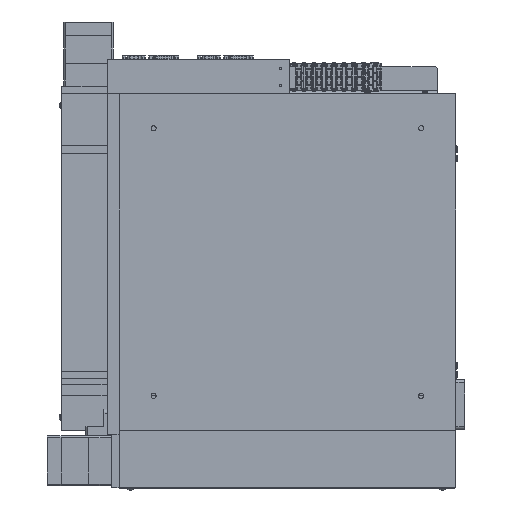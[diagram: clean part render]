
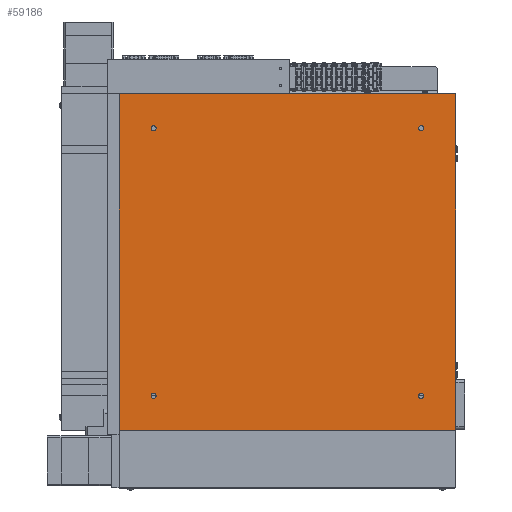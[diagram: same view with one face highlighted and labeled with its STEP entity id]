
A CAD part, front view. The second image highlights one B-rep face of the part: STEP entity #59186.
In plain terms, the highlighted planar face has unit normal (0, -1, 0).
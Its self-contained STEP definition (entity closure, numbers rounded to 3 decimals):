
#1186 = DIRECTION ( 'NONE',  ( 0., 0., 1. ) ) ;
#2061 = CARTESIAN_POINT ( 'NONE',  ( -220., 0., 220. ) ) ;
#4040 = CIRCLE ( 'NONE', #39482, 3.3 ) ;
#4667 = ORIENTED_EDGE ( 'NONE', *, *, #87656, .T. ) ;
#4903 = CARTESIAN_POINT ( 'NONE',  ( 175., 0., 175. ) ) ;
#5033 = DIRECTION ( 'NONE',  ( 0., 1., 0. ) ) ;
#5358 = CIRCLE ( 'NONE', #46763, 3.3 ) ;
#8767 = VERTEX_POINT ( 'NONE', #2061 ) ;
#9667 = VECTOR ( 'NONE', #73971, 1000. ) ;
#10274 = EDGE_LOOP ( 'NONE', ( #84676, #73522 ) ) ;
#13258 = AXIS2_PLACEMENT_3D ( 'NONE', #60810, #24796, #31212 ) ;
#13278 = ORIENTED_EDGE ( 'NONE', *, *, #60218, .T. ) ;
#14311 = CARTESIAN_POINT ( 'NONE',  ( 220., 0., 220. ) ) ;
#15966 = FACE_BOUND ( 'NONE', #76159, .T. ) ;
#17038 = FACE_BOUND ( 'NONE', #76441, .T. ) ;
#17712 = LINE ( 'NONE', #57395, #38296 ) ;
#17789 = CARTESIAN_POINT ( 'NONE',  ( -175., 0., -175. ) ) ;
#18253 = VERTEX_POINT ( 'NONE', #23644 ) ;
#18469 = ORIENTED_EDGE ( 'NONE', *, *, #79032, .F. ) ;
#18575 = CIRCLE ( 'NONE', #69526, 3.3 ) ;
#19111 = EDGE_LOOP ( 'NONE', ( #55424, #39641, #18469, #49808 ) ) ;
#19838 = EDGE_CURVE ( 'NONE', #89868, #72749, #82576, .T. ) ;
#20342 = CARTESIAN_POINT ( 'NONE',  ( -175., 0., 178.3 ) ) ;
#22399 = VERTEX_POINT ( 'NONE', #75032 ) ;
#23644 = CARTESIAN_POINT ( 'NONE',  ( 220., 0., -220. ) ) ;
#24796 = DIRECTION ( 'NONE',  ( 0., 1., 0. ) ) ;
#25765 = DIRECTION ( 'NONE',  ( 0., 0., 1. ) ) ;
#26183 = EDGE_CURVE ( 'NONE', #29139, #29512, #4040, .T. ) ;
#27728 = DIRECTION ( 'NONE',  ( 0., 1., 0. ) ) ;
#27845 = CIRCLE ( 'NONE', #85284, 3.3 ) ;
#29057 = LINE ( 'NONE', #44605, #71160 ) ;
#29139 = VERTEX_POINT ( 'NONE', #86421 ) ;
#29512 = VERTEX_POINT ( 'NONE', #20342 ) ;
#31212 = DIRECTION ( 'NONE',  ( 0., 0., 1. ) ) ;
#32157 = CIRCLE ( 'NONE', #45503, 3.3 ) ;
#32907 = CARTESIAN_POINT ( 'NONE',  ( -220., 0., -220. ) ) ;
#33378 = CARTESIAN_POINT ( 'NONE',  ( -175., 0., -178.3 ) ) ;
#36123 = VERTEX_POINT ( 'NONE', #58691 ) ;
#36129 = DIRECTION ( 'NONE',  ( 0., 0., 1. ) ) ;
#36553 = VERTEX_POINT ( 'NONE', #14311 ) ;
#38296 = VECTOR ( 'NONE', #42086, 1000. ) ;
#39170 = DIRECTION ( 'NONE',  ( 0., 1., 0. ) ) ;
#39457 = VERTEX_POINT ( 'NONE', #32907 ) ;
#39482 = AXIS2_PLACEMENT_3D ( 'NONE', #81749, #46069, #68043 ) ;
#39641 = ORIENTED_EDGE ( 'NONE', *, *, #71910, .F. ) ;
#41864 = DIRECTION ( 'NONE',  ( 0., 1., 0. ) ) ;
#42086 = DIRECTION ( 'NONE',  ( 1., 0., 0. ) ) ;
#44605 = CARTESIAN_POINT ( 'NONE',  ( -220., 0., -220. ) ) ;
#44823 = DIRECTION ( 'NONE',  ( 0., 1., 0. ) ) ;
#45503 = AXIS2_PLACEMENT_3D ( 'NONE', #17789, #39170, #75783 ) ;
#46069 = DIRECTION ( 'NONE',  ( 0., 1., 0. ) ) ;
#46276 = VERTEX_POINT ( 'NONE', #66693 ) ;
#46413 = CIRCLE ( 'NONE', #51641, 3.3 ) ;
#46763 = AXIS2_PLACEMENT_3D ( 'NONE', #88101, #65740, #36129 ) ;
#47005 = ORIENTED_EDGE ( 'NONE', *, *, #83039, .T. ) ;
#47422 = DIRECTION ( 'NONE',  ( 0., 1., 0. ) ) ;
#48488 = EDGE_CURVE ( 'NONE', #39457, #8767, #67791, .T. ) ;
#48762 = DIRECTION ( 'NONE',  ( 0., 0., 1. ) ) ;
#49100 = CARTESIAN_POINT ( 'NONE',  ( 175., 0., -175. ) ) ;
#49808 = ORIENTED_EDGE ( 'NONE', *, *, #61134, .F. ) ;
#50480 = DIRECTION ( 'NONE',  ( 0., 0., 1. ) ) ;
#50726 = CARTESIAN_POINT ( 'NONE',  ( -220., 0., -220. ) ) ;
#50916 = EDGE_LOOP ( 'NONE', ( #13278, #4667 ) ) ;
#51641 = AXIS2_PLACEMENT_3D ( 'NONE', #89452, #44823, #1186 ) ;
#52451 = FACE_BOUND ( 'NONE', #10274, .T. ) ;
#55424 = ORIENTED_EDGE ( 'NONE', *, *, #48488, .F. ) ;
#56390 = AXIS2_PLACEMENT_3D ( 'NONE', #62751, #5033, #85355 ) ;
#57395 = CARTESIAN_POINT ( 'NONE',  ( -220., 0., 220. ) ) ;
#58343 = VECTOR ( 'NONE', #68395, 1000. ) ;
#58691 = CARTESIAN_POINT ( 'NONE',  ( 175., 0., -171.7 ) ) ;
#59186 = ADVANCED_FACE ( 'NONE', ( #17038, #92321, #15966, #52451, #88975 ), #69451, .F. ) ;
#60218 = EDGE_CURVE ( 'NONE', #22399, #83536, #46413, .T. ) ;
#60585 = EDGE_CURVE ( 'NONE', #72749, #89868, #5358, .T. ) ;
#60810 = CARTESIAN_POINT ( 'NONE',  ( -175., 0., 175. ) ) ;
#61134 = EDGE_CURVE ( 'NONE', #8767, #36553, #17712, .T. ) ;
#61709 = CARTESIAN_POINT ( 'NONE',  ( 220., 0., -220. ) ) ;
#62751 = CARTESIAN_POINT ( 'NONE',  ( 0., 0., 0. ) ) ;
#64069 = CARTESIAN_POINT ( 'NONE',  ( 175., 0., 178.3 ) ) ;
#65140 = AXIS2_PLACEMENT_3D ( 'NONE', #4903, #41864, #50480 ) ;
#65740 = DIRECTION ( 'NONE',  ( 0., 1., 0. ) ) ;
#66693 = CARTESIAN_POINT ( 'NONE',  ( 175., 0., -178.3 ) ) ;
#67791 = LINE ( 'NONE', #50726, #9667 ) ;
#68043 = DIRECTION ( 'NONE',  ( 0., 0., 1. ) ) ;
#68395 = DIRECTION ( 'NONE',  ( 0., 0., -1. ) ) ;
#69451 = PLANE ( 'NONE',  #56390 ) ;
#69526 = AXIS2_PLACEMENT_3D ( 'NONE', #49100, #27728, #48762 ) ;
#71160 = VECTOR ( 'NONE', #88599, 1000. ) ;
#71910 = EDGE_CURVE ( 'NONE', #18253, #39457, #29057, .T. ) ;
#72269 = CIRCLE ( 'NONE', #13258, 3.3 ) ;
#72749 = VERTEX_POINT ( 'NONE', #87607 ) ;
#73522 = ORIENTED_EDGE ( 'NONE', *, *, #60585, .T. ) ;
#73971 = DIRECTION ( 'NONE',  ( 0., 0., 1. ) ) ;
#75032 = CARTESIAN_POINT ( 'NONE',  ( -175., 0., -171.7 ) ) ;
#75672 = EDGE_CURVE ( 'NONE', #29512, #29139, #72269, .T. ) ;
#75783 = DIRECTION ( 'NONE',  ( 0., 0., 1. ) ) ;
#75807 = EDGE_CURVE ( 'NONE', #36123, #46276, #27845, .T. ) ;
#76159 = EDGE_LOOP ( 'NONE', ( #89702, #47005 ) ) ;
#76441 = EDGE_LOOP ( 'NONE', ( #90137, #76783 ) ) ;
#76783 = ORIENTED_EDGE ( 'NONE', *, *, #26183, .T. ) ;
#79032 = EDGE_CURVE ( 'NONE', #36553, #18253, #90270, .T. ) ;
#81749 = CARTESIAN_POINT ( 'NONE',  ( -175., 0., 175. ) ) ;
#82576 = CIRCLE ( 'NONE', #65140, 3.3 ) ;
#83039 = EDGE_CURVE ( 'NONE', #46276, #36123, #18575, .T. ) ;
#83424 = CARTESIAN_POINT ( 'NONE',  ( 175., 0., -175. ) ) ;
#83536 = VERTEX_POINT ( 'NONE', #33378 ) ;
#84676 = ORIENTED_EDGE ( 'NONE', *, *, #19838, .T. ) ;
#85284 = AXIS2_PLACEMENT_3D ( 'NONE', #83424, #47422, #25765 ) ;
#85355 = DIRECTION ( 'NONE',  ( 0., 0., 1. ) ) ;
#86421 = CARTESIAN_POINT ( 'NONE',  ( -175., 0., 171.7 ) ) ;
#87607 = CARTESIAN_POINT ( 'NONE',  ( 175., 0., 171.7 ) ) ;
#87656 = EDGE_CURVE ( 'NONE', #83536, #22399, #32157, .T. ) ;
#88101 = CARTESIAN_POINT ( 'NONE',  ( 175., 0., 175. ) ) ;
#88599 = DIRECTION ( 'NONE',  ( -1., 0., 0. ) ) ;
#88975 = FACE_OUTER_BOUND ( 'NONE', #19111, .T. ) ;
#89452 = CARTESIAN_POINT ( 'NONE',  ( -175., 0., -175. ) ) ;
#89702 = ORIENTED_EDGE ( 'NONE', *, *, #75807, .T. ) ;
#89868 = VERTEX_POINT ( 'NONE', #64069 ) ;
#90137 = ORIENTED_EDGE ( 'NONE', *, *, #75672, .T. ) ;
#90270 = LINE ( 'NONE', #61709, #58343 ) ;
#92321 = FACE_BOUND ( 'NONE', #50916, .T. ) ;
